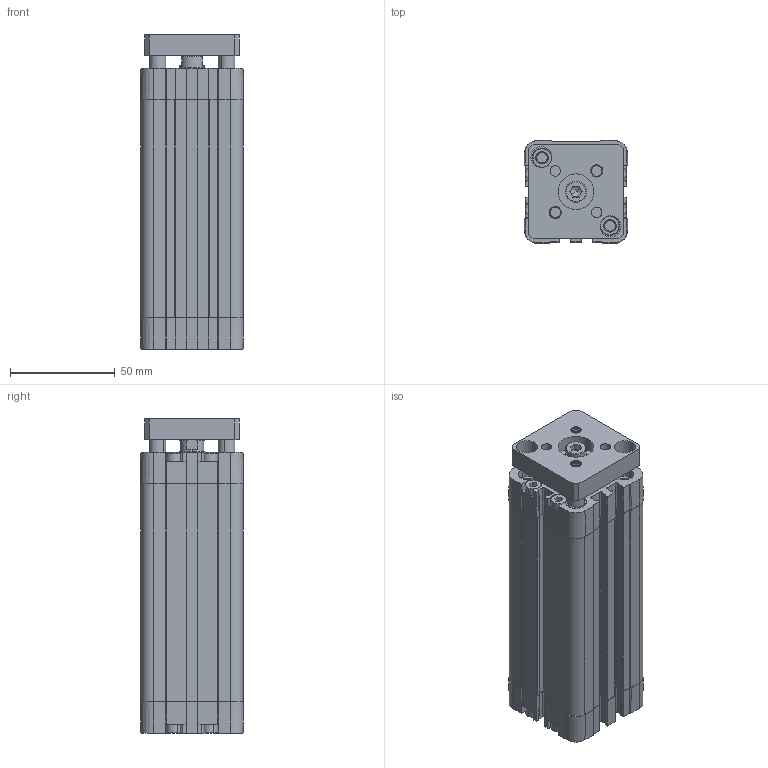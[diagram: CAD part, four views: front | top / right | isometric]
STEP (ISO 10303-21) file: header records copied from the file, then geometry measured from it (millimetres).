
FILE_DESCRIPTION (( 'STEP AP214' ), '1' );
FILE_NAME ('NSKI032.0090 F AR.STEP', '2011-06-06T13:37:54', ( 'utente' ), ( '' ), 'SwSTEP 2.0', 'SolidWorks 2009', '' );
FILE_SCHEMA (( 'AUTOMOTIVE_DESIGN' ));
Length unit declared in the file: millimetre
Products named in the file (7): PISTON ROD-NSKI 032 F AR_STROKE 0090; BARREL-NSKI32 AR_STROKE 0090; ANTI ROTATION STEEM-NSKI32AR_STROKE 0090; FRONT END CAP-NSKI 32 AR; NSKI032.0090 F AR; REAR END CAP-NSKI 32; ANTI ROTATION PLATE-NSKI32AR
Assembly tree (7 placements, depth 2):
  NSKI032.0090 F AR
    FRONT END CAP-NSKI 32 AR
    REAR END CAP-NSKI 32
    BARREL-NSKI32 AR_STROKE 0090
    ANTI ROTATION STEEM-NSKI32AR_STROKE 0090  x2
    ANTI ROTATION PLATE-NSKI32AR
    PISTON ROD-NSKI 032 F AR_STROKE 0090
Bounding box: 49.2 x 49.2 x 150 mm (x, y, z)
Volume: 235453.6 mm3; surface area: 94371.1 mm2
Topology: 8 solids, 8 shells, 1198 faces, 3072 edges, 1941 vertices
Faces by surface type: plane 546, cone 440, cylinder 210, torus 2
Entity records: 38563 total; most frequent: CARTESIAN_POINT 6664, DIRECTION 6386, ORIENTED_EDGE 6096, EDGE_CURVE 3048, AXIS2_PLACEMENT_3D 2273, VERTEX_POINT 1935, VECTOR 1840, LINE 1840
